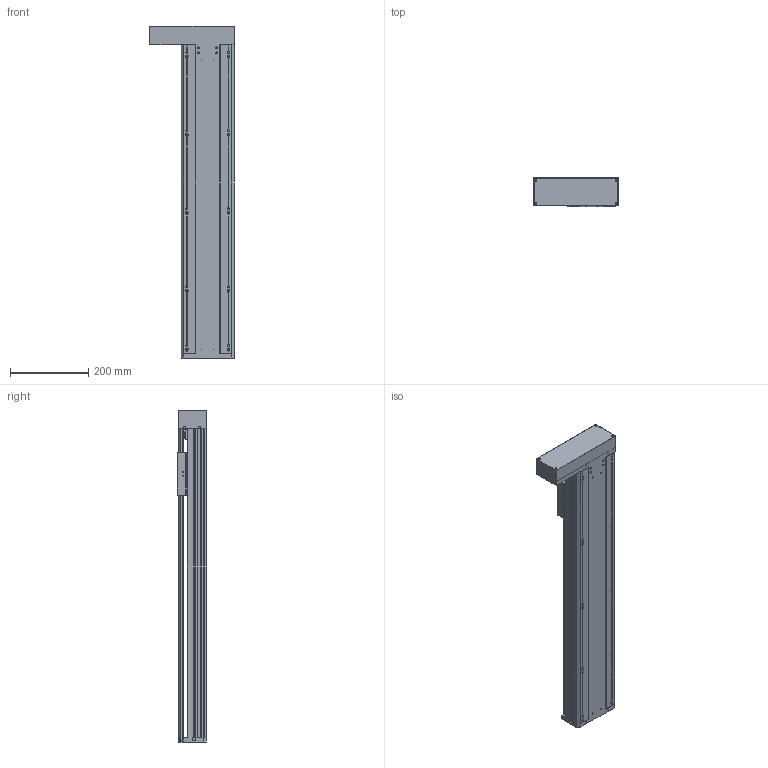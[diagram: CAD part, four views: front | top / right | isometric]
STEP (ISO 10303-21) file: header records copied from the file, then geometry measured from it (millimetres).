
FILE_DESCRIPTION(/* description */ (''),/* implementation_level */ '2;1');
FILE_NAME(/* name */ 'TKA136-FL-600_asm1.stp',/* time_stamp */ '2016-05-07T13:20:53+08:00',/* author */ (''),/* organization */ (''),/* preprocessor_version */ 'ST-DEVELOPER v15',/* originating_system */ 'SIEMENS PLM Software NX 8.5',/* authorisation */ '');
FILE_SCHEMA (('AUTOMOTIVE_DESIGN { 1 0 10303 214 3 1 1 1 }'));
Length unit declared in the file: millimetre
Products named in the file (3): 100-02; 100-01; TKA136-FL-600_asm1
Assembly tree (2 placements, depth 2):
  TKA136-FL-600_asm1
    100-01
    100-02
Bounding box: 216 x 75 x 850 mm (x, y, z)
Volume: 2661426 mm3; surface area: 1055029.5 mm2
Topology: 2 solids, 12 shells, 886 faces, 2496 edges, 1629 vertices
Faces by surface type: plane 421, cylinder 414, cone 51
Full cylindrical faces by diameter (mm): 2.5 x14, 3 x2, 3.3 x13, 4 x4, 4.2 x6, 4.5 x24, 5 x18, 5.5 x26, 6.6 x14, 8 x20, 10 x9, 10.5 x10, 11 x4, 11.6 x1, 12 x9, 15 x3, 16 x5, 17 x1, 24 x5, 26 x1, 28 x1, 46 x1, 50 x1
Entity records: 29616 total; most frequent: CARTESIAN_POINT 7794, DIRECTION 4518, ORIENTED_EDGE 4234, EDGE_CURVE 2117, AXIS2_PLACEMENT_3D 1707, VERTEX_POINT 1512, EDGE_LOOP 1320, LINE 1104
